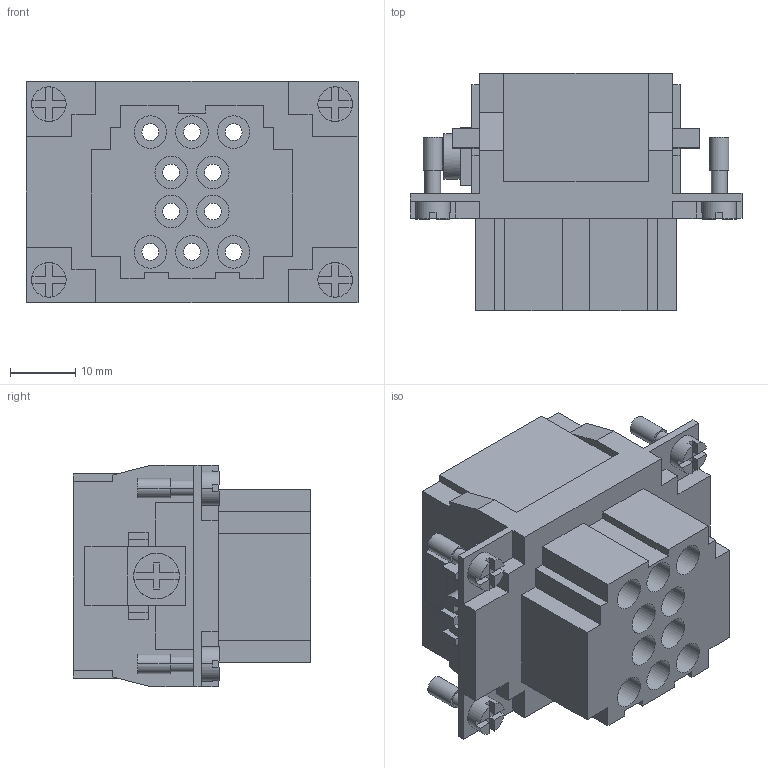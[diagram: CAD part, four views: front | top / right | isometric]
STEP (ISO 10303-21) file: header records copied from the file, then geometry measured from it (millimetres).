
FILE_DESCRIPTION (( 'STEP AP203' ), '1' );
FILE_NAME ('352235.STEP', '2025-06-26T08:32:59', ( '' ), ( '' ), 'SwSTEP 2.0', 'SolidWorks 2018', '' );
FILE_SCHEMA (( 'CONFIG_CONTROL_DESIGN' ));
Length unit declared in the file: millimetre
Products named in the file (1): 352235
Bounding box: 51 x 36.5 x 34 mm (x, y, z)
Volume: 28136.1 mm3; surface area: 14454.2 mm2
Topology: 1 solids, 1 shells, 340 faces, 872 edges, 580 vertices
Faces by surface type: plane 232, cylinder 108
Entity records: 10453 total; most frequent: DIRECTION 1806, CARTESIAN_POINT 1793, ORIENTED_EDGE 1744, EDGE_CURVE 872, LINE 620, VECTOR 620, AXIS2_PLACEMENT_3D 593, VERTEX_POINT 580
